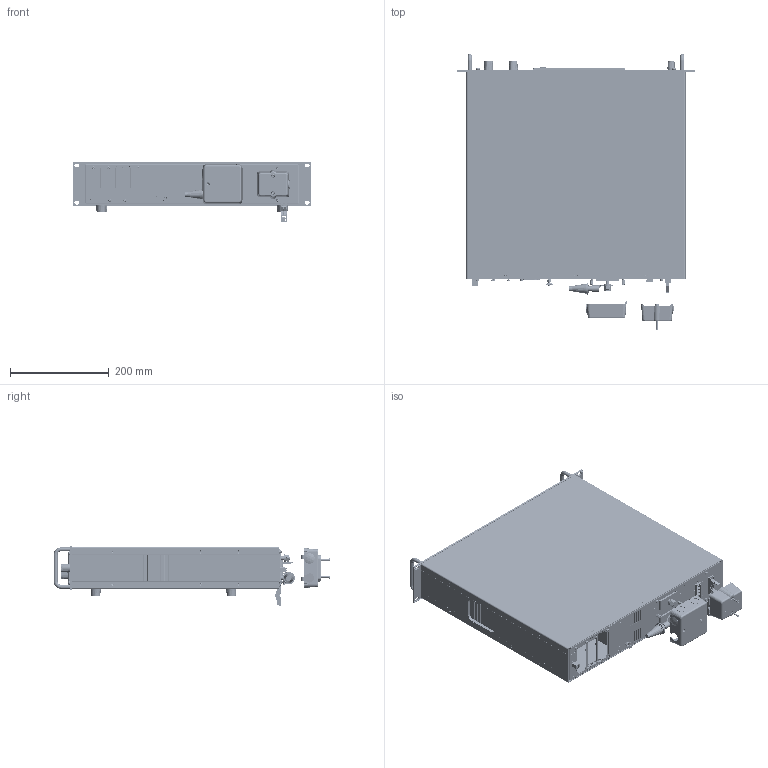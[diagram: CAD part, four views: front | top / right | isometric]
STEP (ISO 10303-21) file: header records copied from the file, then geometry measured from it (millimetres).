
FILE_DESCRIPTION(/* description */ (''),/* implementation_level */ '2;1');
FILE_NAME(/* name */ 'D:\SM3300\SM3300 presentation\SM3300 outside model\assembly sm3300 outside_Shrinkwrap_1a.stp',/* time_stamp */ '2013-10-28T16:59:55+01:00',/* author */ ('Simon'),/* organization */ (''),/* preprocessor_version */ 'ST-DEVELOPER v15.2',/* originating_system */ 'Autodesk Inventor 2014',/* authorisation */ '');
FILE_SCHEMA (('AUTOMOTIVE_DESIGN { 1 0 10303 214 3 1 1 }'));
Products named in the file (1): assembly sm3300 outside_Shrinkwrap_1a
Bounding box: 482.5 x 560 x 120.21 mm (x, y, z)
Volume: 15269521.1 mm3; surface area: 920270.8 mm2
Topology: 7 solids, 240 shells, 6323 faces, 17154 edges, 11338 vertices
Faces by surface type: plane 3510, cylinder 1301, cone 810, bspline 496, torus 192, sphere 14
Full cylindrical faces by diameter (mm): 0.339 x4, 1.1 x3, 1.5 x10, 1.8 x8, 2.3 x2, 2.4 x8, 2.459 x15, 2.5 x23, 2.6 x1, 3 x21, 3.2 x5, 3.242 x4, 3.5 x23, 4 x9, 4.1 x4, 4.14 x24, 4.2 x18, 4.25 x17, 4.3 x25, 4.5 x14, 4.6 x5, 4.8 x2, 5 x3, 5.5 x21, 6 x22, 6.3 x30, 6.647 x1, 7.8 x8, 7.9 x2, 8 x8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
Entity records: 207478 total; most frequent: CARTESIAN_POINT 49946, ORIENTED_EDGE 30932, DIRECTION 29846, EDGE_CURVE 16106, VERTEX_POINT 11112, AXIS2_PLACEMENT_3D 10172, LINE 9502, VECTOR 9502
